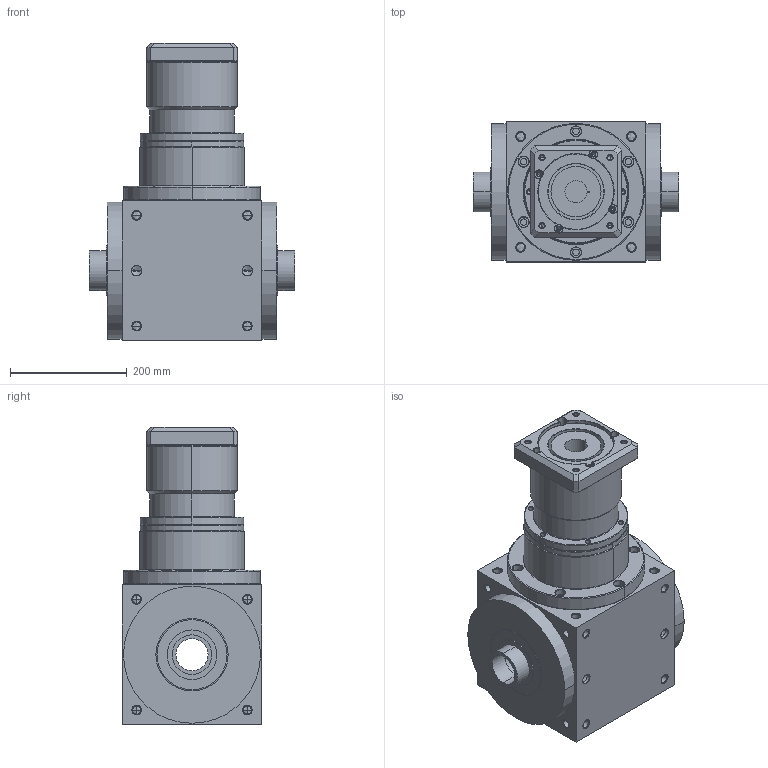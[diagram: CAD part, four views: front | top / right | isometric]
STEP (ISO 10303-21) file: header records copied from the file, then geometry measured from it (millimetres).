
FILE_DESCRIPTION((''),'2;1');
FILE_NAME('AT240FC2-P0405500201_ASM','2009-02-06T',('d00176'),(''),'PRO/ENGINEER BY PARAMETRIC TECHNOLOGY CORPORATION, 2006170','PRO/ENGINEER BY PARAMETRIC TECHNOLOGY CORPORATION, 2006170','');
FILE_SCHEMA(('CONFIG_CONTROL_DESIGN'));
Length unit declared in the file: millimetre
Products named in the file (5): ATFC-HOUSING-2-9; P1801900001; P0226900001; P0405500201; AT240FC2-P0405500201_ASM
Assembly tree (4 placements, depth 2):
  AT240FC2-P0405500201_ASM
    ATFC-HOUSING-2-9
    P1801900001
    P0226900001
    P0405500201
Bounding box: 352 x 240 x 510 mm (x, y, z)
Volume: 19454177.9 mm3; surface area: 1004570.9 mm2
Topology: 4 solids, 42 shells, 812 faces, 1970 edges, 1156 vertices
Faces by surface type: cylinder 342, cone 284, plane 116, torus 50, bspline 20
Entity records: 24733 total; most frequent: CARTESIAN_POINT 5705, DIRECTION 4284, ORIENTED_EDGE 3604, EDGE_CURVE 1878, AXIS2_PLACEMENT_3D 1787, VERTEX_POINT 1156, CIRCLE 978, EDGE_LOOP 968
